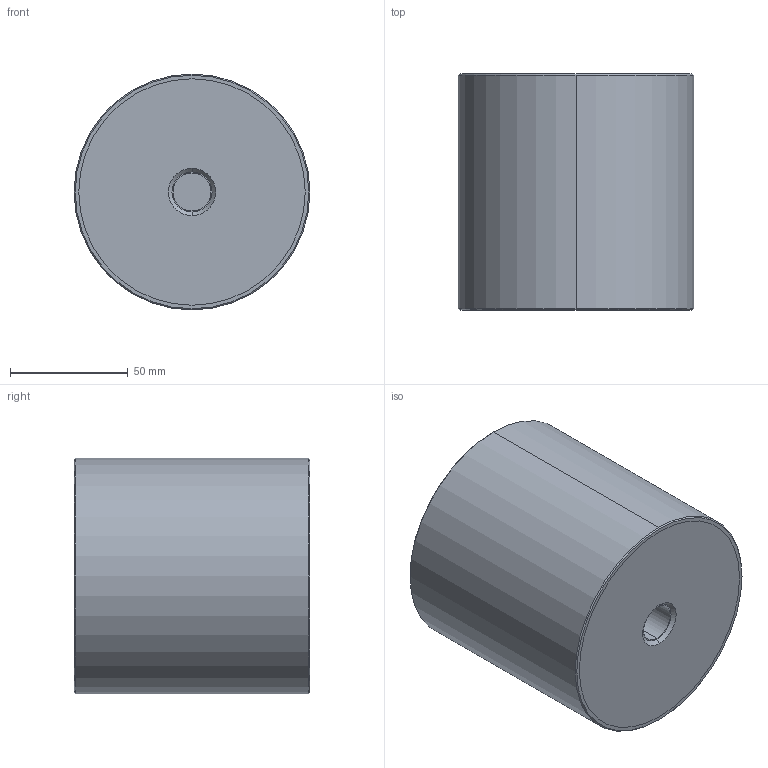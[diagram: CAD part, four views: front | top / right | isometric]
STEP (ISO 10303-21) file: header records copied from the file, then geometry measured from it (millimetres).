
FILE_DESCRIPTION (( 'STEP AP203' ), '1' );
FILE_NAME ('61080.W0904.step', '2018-07-16T20:47:39', ( '' ), ( '' ), 'SwSTEP 2.0', 'SolidWorks 2017', '' );
FILE_SCHEMA (( 'CONFIG_CONTROL_DESIGN' ));
Length unit declared in the file: millimetre
Products named in the file (4): Part1_61080.W0904; 61080.W0904; Part2_61080.W0904; Part3_61080.W0904
Assembly tree (3 placements, depth 2):
  61080.W0904
    Part1_61080.W0904
    Part2_61080.W0904
    Part3_61080.W0904
Bounding box: 100 x 100 x 100 mm (x, y, z)
Volume: 778680.9 mm3; surface area: 78323.7 mm2
Topology: 3 solids, 3 shells, 32 faces, 62 edges, 40 vertices
Faces by surface type: cylinder 14, plane 10, cone 8
Entity records: 1256 total; most frequent: DIRECTION 178, CARTESIAN_POINT 140, ORIENTED_EDGE 124, AXIS2_PLACEMENT_3D 78, EDGE_CURVE 62, EDGE_LOOP 40, CIRCLE 40, VERTEX_POINT 40
